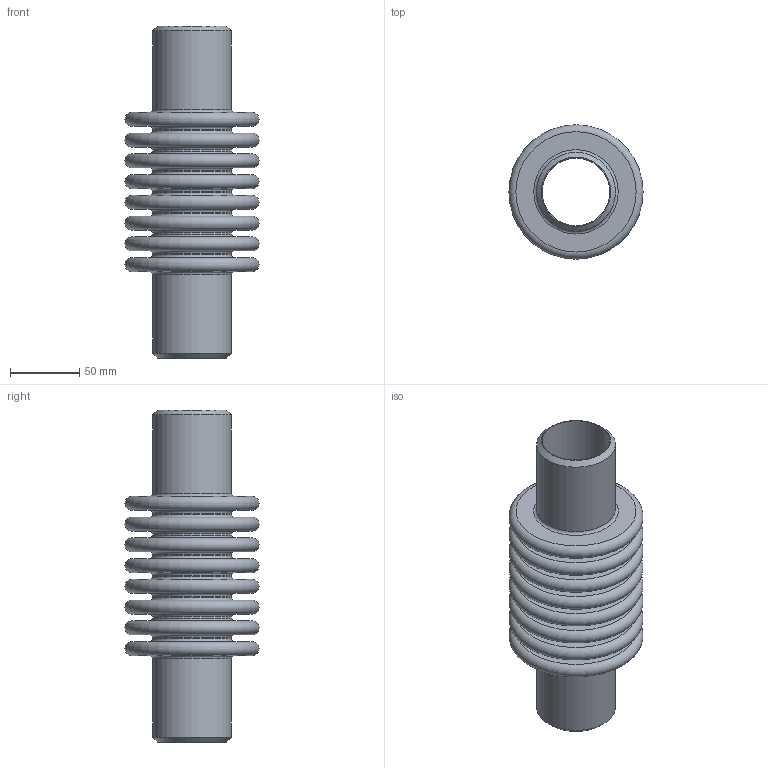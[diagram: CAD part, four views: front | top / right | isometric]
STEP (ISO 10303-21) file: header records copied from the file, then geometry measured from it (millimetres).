
FILE_DESCRIPTION(/* description */ ('D140-02130','CAx-IF Rec.Pracs.---Representation and Presentation of Product Manufacturing Information (PMI)---4.0---2014-10-13'),/* implementation_level */ '2;1');
FILE_NAME(/* name */ '',/* time_stamp */ '2026-04-13T20:57:02+03:00',/* author */ ('DN.RU'),/* organization */ ('DN.RU'),/* preprocessor_version */ 'ST-DEVELOPER v20',/* originating_system */ 'Autodesk Inventor 2025',/* authorisation */ '');
FILE_SCHEMA (('AP242_MANAGED_MODEL_BASED_3D_ENGINEERING_MIM_LF { 1 0 10303 442 1 1 4 }'));
Length unit declared in the file: millimetre
Products named in the file (1): CB-3131-W
Bounding box: 97 x 97 x 240 mm (x, y, z)
Volume: 178458.5 mm3; surface area: 230823.1 mm2
Topology: 1 solids, 1 shells, 295 faces, 726 edges, 484 vertices
Faces by surface type: plane 124, bspline 84, torus 48, cylinder 37, cone 2
Full cylindrical faces by diameter (mm): 49 x2, 55 x7, 57 x9
Entity records: 12176 total; most frequent: CARTESIAN_POINT 4824, ORIENTED_EDGE 1452, DIRECTION 1316, EDGE_CURVE 726, AXIS2_PLACEMENT_3D 517, VERTEX_POINT 484, STYLED_ITEM 365, EDGE_LOOP 348
